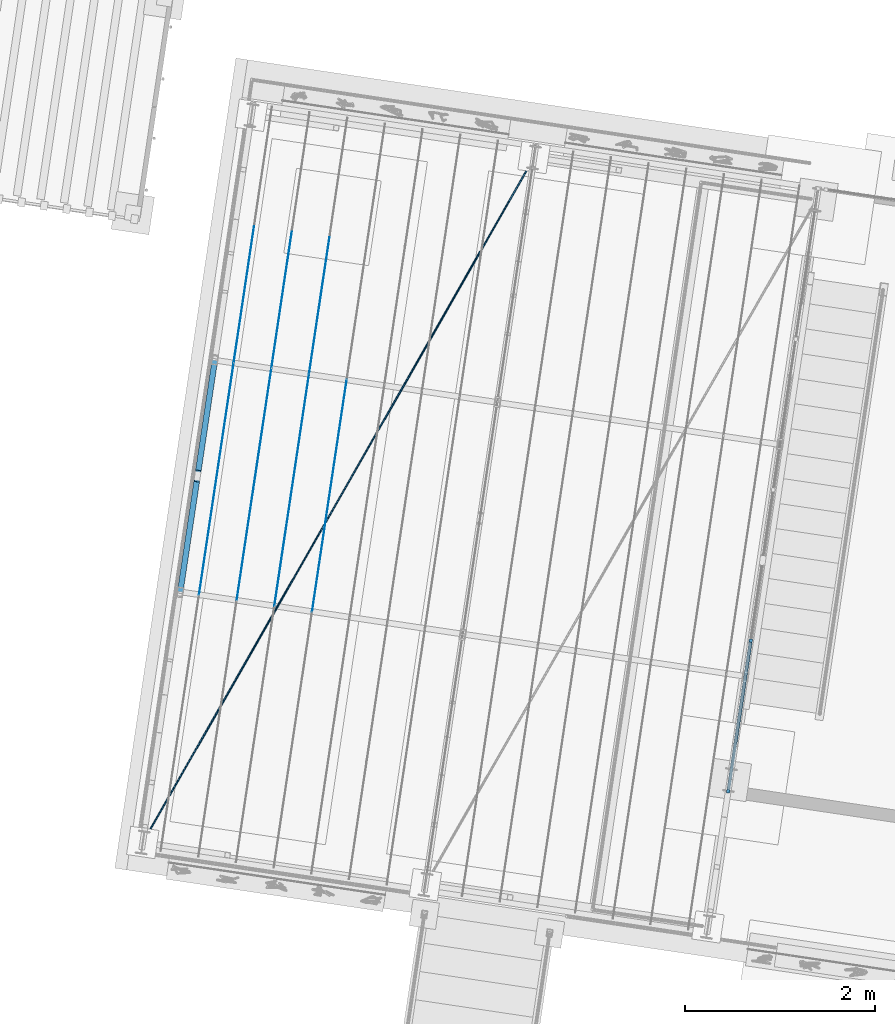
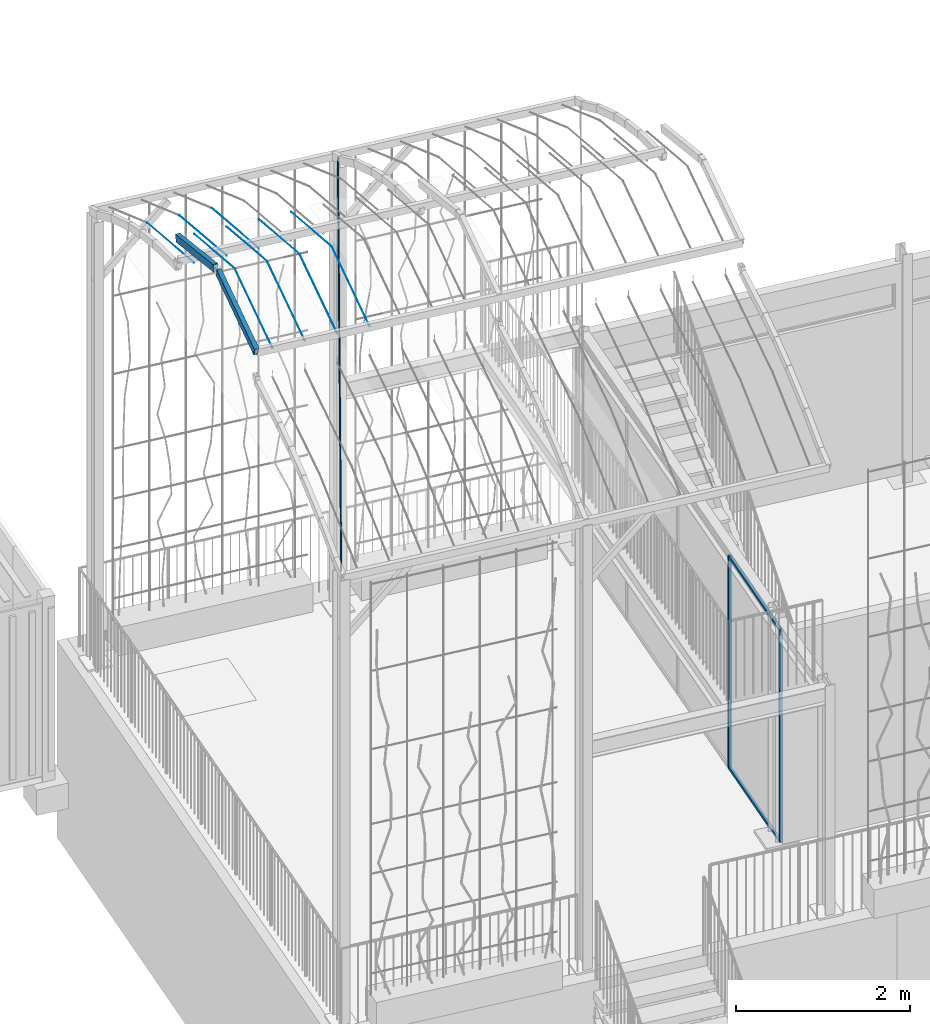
# One storey, part 24 of 142: 19 members, 1 element without a shape of its own.
"""IFC4 building model written with IfcOpenShell, lengths in metres."""

from ifc_helpers import new_model, si_unit, direction, frame, origin_with_axes, place, context, subcontext, project, spatial, rectangle, hollow_rectangle, circle, extrude, material, material_profile, profile_set, profile_usage, type_object, element, aggregate, save


model = new_model("IFC4")

# Units and contexts
model_context = context("Model", 3, precision=1e-05, world=origin_with_axes(), true_north=direction((0.0, 1.0)))
body_context = subcontext(model_context, "Body", "Model", "MODEL_VIEW")
ifc_project = project(units=[si_unit("VOLUMEUNIT", "CUBIC_METRE"), si_unit("LENGTHUNIT", "METRE"), si_unit("AREAUNIT", "SQUARE_METRE")], contexts=[model_context])

# Site, building, storey
site_placement = place(None, origin_with_axes())
site = spatial("IfcSite", under=ifc_project, at=site_placement, Name="Lares · Rua das Mercês · artigo 4771")
building_placement = place(site_placement, frame((12.0, 10.2, 13.9), z_axis=(0.0, 0.0, 1.0), x_axis=(0.989015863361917, -0.147809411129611, 0.0)))
building = spatial("IfcBuilding", under=site, at=building_placement, Name="Casa Sobreposta")
storey_placement = place(building_placement, origin_with_axes())
storey = spatial("IfcBuildingStorey", under=building, at=storey_placement, Name="00 · Habitação e estacionamento", Elevation=13.9)

# Members
ifc_material_1 = material(Name="Aço pintado / Stahl lackiert", Category="steel")
ifc_material_profile_1 = material_profile(ifc_material_1, rectangle(XDim=0.035, YDim=0.035))
ifc_profile_set_1 = profile_set([ifc_material_profile_1], Name="R0.035")
ifc_profile_usage_1 = profile_usage(ifc_profile_set_1)
member_type_1 = type_object("IfcMemberType", Name="R0.035 / steel", PredefinedType="NOTDEFINED", material=ifc_profile_set_1)
member_1_placement = place(storey_placement, origin_with_axes())
element("IfcMember", 1, at=member_1_placement, inside=storey, type_object=member_type_1, material=ifc_profile_usage_1, Name="Fachada poente integralmente envidraçada · módulo 1 · montante", context=body_context, shape_type="SweptSolid", body=[
    extrude(rectangle(XDim=0.035, YDim=0.035), origin_with_axes(), (0.0, 0.0, 1.0), 2.968),
])
ifc_profile_usage_2 = profile_usage(ifc_profile_set_1)
member_2_placement = place(storey_placement, frame((0.0, 1.6, 0.0), z_axis=(0.0, 0.0, 1.0), x_axis=(1.0, 0.0, 0.0)))
element("IfcMember", 2, at=member_2_placement, inside=storey, type_object=member_type_1, material=ifc_profile_usage_2, context=body_context, shape_type="SweptSolid", body=[
    extrude(rectangle(XDim=0.035, YDim=0.035), origin_with_axes(), (0.0, 0.0, 1.0), 2.968),
])
ifc_profile_usage_3 = profile_usage(ifc_profile_set_1)
member_3_placement = place(storey_placement, frame((0.0, 0.0, 0.0), z_axis=(0.0, 1.0, 0.0), x_axis=(1.0, 0.0, 0.0)))
element("IfcMember", 3, at=member_3_placement, inside=storey, type_object=member_type_1, material=ifc_profile_usage_3, Name="Fachada poente integralmente envidraçada · módulo 1 · travessa", context=body_context, shape_type="SweptSolid", body=[
    extrude(rectangle(XDim=0.035, YDim=0.035), origin_with_axes(), (0.0, 0.0, 1.0), 1.6),
])
ifc_profile_usage_4 = profile_usage(ifc_profile_set_1)
member_4_placement = place(storey_placement, frame((0.0, 0.0, 2.968), z_axis=(0.0, 1.0, 0.0), x_axis=(1.0, 0.0, 0.0)))
element("IfcMember", 4, at=member_4_placement, inside=storey, type_object=member_type_1, material=ifc_profile_usage_4, Name="Fachada poente integralmente envidraçada · módulo 1 · travessa", context=body_context, shape_type="SweptSolid", body=[
    extrude(rectangle(XDim=0.035, YDim=0.035), origin_with_axes(), (0.0, 0.0, 1.0), 1.6),
])
ifc_profile_usage_5 = profile_usage(ifc_profile_set_1)
member_5_placement = place(storey_placement, frame((0.0, 1.6, 0.0), z_axis=(0.0, 0.0, 1.0), x_axis=(1.0, 0.0, 0.0)))
element("IfcMember", 5, at=member_5_placement, inside=storey, type_object=member_type_1, material=ifc_profile_usage_5, context=body_context, shape_type="SweptSolid", body=[
    extrude(rectangle(XDim=0.035, YDim=0.035), origin_with_axes(), (0.0, 0.0, 1.0), 2.968),
])

# Assembly, members
assembly_placement = place(storey_placement, origin_with_axes())
assembly = element("IfcElementAssembly", 6, at=assembly_placement, inside=storey, Name="Pérgola · prolongamento da estufa 6 m", ObjectType="PERGOLA_GREENHOUSE_EXTENSION", PredefinedType="USERDEFINED")
ifc_material_profile_2 = material_profile(ifc_material_1, hollow_rectangle(XDim=0.06, YDim=0.1, WallThickness=0.004))
ifc_profile_set_2 = profile_set([ifc_material_profile_2], Name="RHS100x60x4")
ifc_profile_usage_6 = profile_usage(ifc_profile_set_2)
member_type_2 = type_object("IfcMemberType", Name="RHS100x60x4 / steel", PredefinedType="NOTDEFINED", material=ifc_profile_set_2)
member_6_placement = place(assembly_placement, frame((-6.0, 1.22042020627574, 7.62067689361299), z_axis=(0.0, 0.960073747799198, 0.279747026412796), x_axis=(1.0, 0.0, 0.0)))
member_6 = element("IfcMember", 7, at=member_6_placement, type_object=member_type_2, material=ifc_profile_usage_6, Name="Pérgola · arco contínuo com a estufa", context=body_context, shape_type="SweptSolid", body=[
    extrude(hollow_rectangle(XDim=0.06, YDim=0.1, WallThickness=0.004), origin_with_axes(), (0.0, 0.0, 1.0), 1.23148937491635),
])
ifc_profile_usage_7 = profile_usage(ifc_profile_set_2)
member_7_placement = place(assembly_placement, frame((-6.0, 2.49770027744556, 7.96518238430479), z_axis=(0.0, 0.96007374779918, -0.279747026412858), x_axis=(1.0, 0.0, 0.0)))
member_7 = element("IfcMember", 8, at=member_7_placement, type_object=member_type_2, material=ifc_profile_usage_7, Name="Pérgola · arco contínuo com a estufa", context=body_context, shape_type="SweptSolid", body=[
    extrude(hollow_rectangle(XDim=0.06, YDim=0.1, WallThickness=0.004), origin_with_axes(), (0.0, 0.0, 1.0), 1.23148937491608),
])
ifc_material_profile_3 = material_profile(ifc_material_1, circle(Radius=0.008))
ifc_profile_set_3 = profile_set([ifc_material_profile_3], Name="D0.016")
ifc_profile_usage_8 = profile_usage(ifc_profile_set_3)
member_type_3 = type_object("IfcMemberType", Name="D0.016 / steel", PredefinedType="NOTDEFINED", material=ifc_profile_set_3)
member_8_placement = place(assembly_placement, frame((-6.0, -1.44, 6.28), z_axis=(0.362213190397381, 0.932095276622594, 0.0), x_axis=(0.932095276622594, -0.362213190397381, 0.0)))
member_8 = element("IfcMember", 9, at=member_8_placement, type_object=member_type_3, material=ifc_profile_usage_8, Name="Pérgola · tirante em cobertura", context=body_context, shape_type="SweptSolid", body=[
    extrude(circle(Radius=0.008), origin_with_axes(), (0.0, 0.0, 1.0), 8.28241510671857),
])
ifc_material_2 = material(Name="Aço galvanizado / Stahl verzinkt", Category="steel")
ifc_material_profile_4 = material_profile(ifc_material_2, circle(Radius=0.002))
ifc_profile_set_4 = profile_set([ifc_material_profile_4], Name="D0.004")
ifc_profile_usage_9 = profile_usage(ifc_profile_set_4)
member_type_4 = type_object("IfcMemberType", Name="D0.004 / galvanized", PredefinedType="NOTDEFINED", material=ifc_profile_set_4)
member_9_placement = place(assembly_placement, frame((-5.8, 1.22042020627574, 7.62067689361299), z_axis=(0.0, 0.960073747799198, 0.279747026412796), x_axis=(1.0, 0.0, 0.0)))
member_9 = element("IfcMember", 10, at=member_9_placement, type_object=member_type_4, material=ifc_profile_usage_9, Name="Pérgola · fio para trepadeiras", context=body_context, shape_type="SweptSolid", body=[
    extrude(circle(Radius=0.002), origin_with_axes(), (0.0, 0.0, 1.0), 1.23148937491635),
])
ifc_profile_usage_10 = profile_usage(ifc_profile_set_4)
member_10_placement = place(assembly_placement, frame((-5.8, 2.40274082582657, 7.96518238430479), z_axis=(0.0, 0.965497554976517, -0.260412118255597), x_axis=(1.0, 0.0, 0.0)))
member_10 = element("IfcMember", 11, at=member_10_placement, type_object=member_type_4, material=ifc_profile_usage_10, Name="Pérgola · fio para trepadeiras", context=body_context, shape_type="SweptSolid", body=[
    extrude(circle(Radius=0.002), origin_with_axes(), (0.0, 0.0, 1.0), 1.32292419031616),
])
ifc_profile_usage_11 = profile_usage(ifc_profile_set_4)
member_11_placement = place(assembly_placement, frame((-5.8, 3.68573096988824, 7.21327919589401), z_axis=(0.0, 0.965357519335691, -0.260930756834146), x_axis=(1.0, 0.0, 0.0)))
member_11 = element("IfcMember", 12, at=member_11_placement, type_object=member_type_4, material=ifc_profile_usage_11, Name="Pérgola · fio para trepadeiras", context=body_context, shape_type="SweptSolid", body=[
    extrude(circle(Radius=0.002), origin_with_axes(), (0.0, 0.0, 1.0), 1.523553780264),
])
ifc_profile_usage_12 = profile_usage(ifc_profile_set_4)
member_12_placement = place(assembly_placement, frame((-5.4, 1.22042020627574, 7.62067689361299), z_axis=(0.0, 0.960073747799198, 0.279747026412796), x_axis=(1.0, 0.0, 0.0)))
member_12 = element("IfcMember", 13, at=member_12_placement, type_object=member_type_4, material=ifc_profile_usage_12, Name="Pérgola · fio para trepadeiras", context=body_context, shape_type="SweptSolid", body=[
    extrude(circle(Radius=0.002), origin_with_axes(), (0.0, 0.0, 1.0), 1.23148937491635),
])
ifc_profile_usage_13 = profile_usage(ifc_profile_set_4)
member_13_placement = place(assembly_placement, frame((-5.4, 2.40274082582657, 7.96518238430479), z_axis=(0.0, 0.965497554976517, -0.260412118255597), x_axis=(1.0, 0.0, 0.0)))
member_13 = element("IfcMember", 14, at=member_13_placement, type_object=member_type_4, material=ifc_profile_usage_13, Name="Pérgola · fio para trepadeiras", context=body_context, shape_type="SweptSolid", body=[
    extrude(circle(Radius=0.002), origin_with_axes(), (0.0, 0.0, 1.0), 1.32292419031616),
])
ifc_profile_usage_14 = profile_usage(ifc_profile_set_4)
member_14_placement = place(assembly_placement, frame((-5.4, 3.68573096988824, 7.21327919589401), z_axis=(0.0, 0.965357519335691, -0.260930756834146), x_axis=(1.0, 0.0, 0.0)))
member_14 = element("IfcMember", 15, at=member_14_placement, type_object=member_type_4, material=ifc_profile_usage_14, Name="Pérgola · fio para trepadeiras", context=body_context, shape_type="SweptSolid", body=[
    extrude(circle(Radius=0.002), origin_with_axes(), (0.0, 0.0, 1.0), 1.523553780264),
])
ifc_profile_usage_15 = profile_usage(ifc_profile_set_4)
member_15_placement = place(assembly_placement, frame((-5.0, 1.22042020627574, 7.62067689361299), z_axis=(0.0, 0.960073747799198, 0.279747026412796), x_axis=(1.0, 0.0, 0.0)))
member_15 = element("IfcMember", 16, at=member_15_placement, type_object=member_type_4, material=ifc_profile_usage_15, Name="Pérgola · fio para trepadeiras", context=body_context, shape_type="SweptSolid", body=[
    extrude(circle(Radius=0.002), origin_with_axes(), (0.0, 0.0, 1.0), 1.23148937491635),
])
ifc_profile_usage_16 = profile_usage(ifc_profile_set_4)
member_16_placement = place(assembly_placement, frame((-5.0, 2.40274082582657, 7.96518238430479), z_axis=(0.0, 0.965497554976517, -0.260412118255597), x_axis=(1.0, 0.0, 0.0)))
member_16 = element("IfcMember", 17, at=member_16_placement, type_object=member_type_4, material=ifc_profile_usage_16, Name="Pérgola · fio para trepadeiras", context=body_context, shape_type="SweptSolid", body=[
    extrude(circle(Radius=0.002), origin_with_axes(), (0.0, 0.0, 1.0), 1.32292419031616),
])
ifc_profile_usage_17 = profile_usage(ifc_profile_set_4)
member_17_placement = place(assembly_placement, frame((-5.0, 3.68573096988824, 7.21327919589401), z_axis=(0.0, 0.965357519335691, -0.260930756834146), x_axis=(1.0, 0.0, 0.0)))
member_17 = element("IfcMember", 18, at=member_17_placement, type_object=member_type_4, material=ifc_profile_usage_17, Name="Pérgola · fio para trepadeiras", context=body_context, shape_type="SweptSolid", body=[
    extrude(circle(Radius=0.002), origin_with_axes(), (0.0, 0.0, 1.0), 1.523553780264),
])
ifc_profile_usage_18 = profile_usage(ifc_profile_set_4)
member_18_placement = place(assembly_placement, frame((-4.6, 1.22042020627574, 7.62067689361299), z_axis=(0.0, 0.960073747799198, 0.279747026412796), x_axis=(1.0, 0.0, 0.0)))
member_18 = element("IfcMember", 19, at=member_18_placement, type_object=member_type_4, material=ifc_profile_usage_18, Name="Pérgola · fio para trepadeiras", context=body_context, shape_type="SweptSolid", body=[
    extrude(circle(Radius=0.002), origin_with_axes(), (0.0, 0.0, 1.0), 1.23148937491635),
])
ifc_profile_usage_19 = profile_usage(ifc_profile_set_4)
member_19_placement = place(assembly_placement, frame((-4.6, 2.40274082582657, 7.96518238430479), z_axis=(0.0, 0.965497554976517, -0.260412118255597), x_axis=(1.0, 0.0, 0.0)))
member_19 = element("IfcMember", 20, at=member_19_placement, type_object=member_type_4, material=ifc_profile_usage_19, Name="Pérgola · fio para trepadeiras", context=body_context, shape_type="SweptSolid", body=[
    extrude(circle(Radius=0.002), origin_with_axes(), (0.0, 0.0, 1.0), 1.32292419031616),
])
aggregate(assembly, [member_6, member_7, member_8, member_9, member_10, member_11, member_12, member_13, member_14, member_15, member_16, member_17, member_18, member_19])

save(model, "model.ifc")
